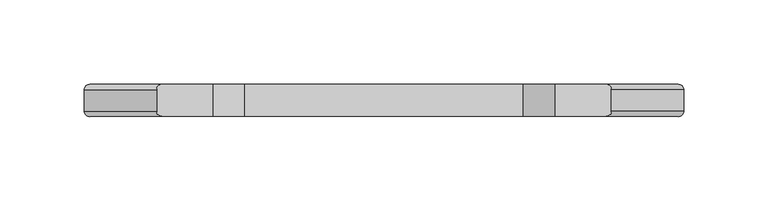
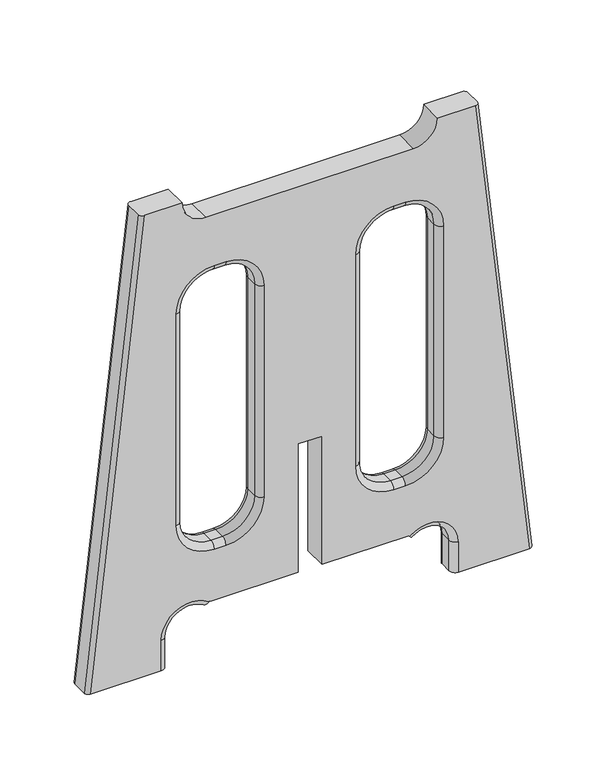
"""IFC4 building model written with IfcOpenShell, lengths in millimetres: furniture geometry, SSL-Childcraft_Outdoor-Stool : 2161353."""

from ifc_helpers import new_model, si_unit, point, frame, origin, place, context, project, spatial, polyline, circle_curve, ellipse_curve, trimmed, source, transform, mapped, element, save
from ifc_brep_helpers import plane_surface, cylinder_surface, revolved_surface, extruded_surface, spline_surface, advanced_brep


def furniture_25313ccf(model_context):
    return source(origin(), model_context, "Body", "AdvancedBrep", [
        advanced_brep(
        [(-101.5873, 4.7625, 117.475), (-76.2, 4.7625, 92.0877), (-76.2, 9.525, 87.3252), (-106.3498, 9.525, 117.475), (-101.5873, -4.7625, 117.475), (-76.2, -4.7625, 92.0877), (-106.3498, -9.525, 117.475), (-76.2, -9.525, 87.3252), (-106.3498, 9.525, 295.2623), (-101.5873, 4.7625, 295.2623), (-101.5873, -4.7625, 295.2623), (-106.3498, -9.525, 295.2623), (-76.1873, 9.525, 325.4248), (-76.1873, 4.7625, 320.6623), (-76.1873, -4.7625, 320.6623), (-76.1873, -9.525, 325.4248), (-66.675, 9.525, 325.4248), (-66.675, 4.7625, 320.6623), (-66.675, -4.7625, 320.6623), (-66.675, -9.525, 325.4248), (-36.5252, 9.525, 295.275), (-41.2877, 4.7625, 295.275), (-41.2877, -4.7625, 295.275), (-36.5252, -9.525, 295.275), (-36.5252, 9.525, 117.475), (-41.2877, 4.7625, 117.475), (-41.2877, -4.7625, 117.475), (-36.5252, -9.525, 117.475), (-66.675, 9.525, 87.3252), (-66.675, 4.7625, 92.0877), (-66.675, -4.7625, 92.0877), (-66.675, -9.525, 87.3252), (113.49355, -4.7625, 0.0), (118.25605, -9.525, 0.0), (118.25605, -9.525, 25.4), (113.49355, -4.7625, 25.4), (113.49355, 4.7625, 0.0), (113.49355, 4.7625, 25.4), (118.25605, 9.525, 0.0), (118.25605, 9.525, 25.4), (66.675, -9.525, 87.3252), (66.675, -4.7625, 92.0877), (41.2877, -4.7625, 117.475), (36.5252, -9.525, 117.475), (41.2877, 4.7625, 117.475), (66.675, 4.7625, 92.0877), (66.675, 9.525, 87.3252), (36.5252, 9.525, 117.475), (41.2877, -4.7625, 295.275), (36.5252, -9.525, 295.275), (36.5252, 9.525, 295.275), (41.2877, 4.7625, 295.275), (66.675, -4.7625, 320.6623), (66.675, -9.525, 325.4248), (66.675, 9.525, 325.4248), (66.675, 4.7625, 320.6623), (76.1873, -4.7625, 320.6623), (76.1873, -9.525, 325.4248), (76.1873, 9.525, 325.4248), (76.1873, 4.7625, 320.6623), (101.5873, -4.7625, 295.2623), (106.3498, -9.525, 295.2623), (106.3498, 9.525, 295.2623), (101.5873, 4.7625, 295.2623), (101.5873, -4.7625, 117.475), (106.3498, -9.525, 117.475), (106.3498, 9.525, 117.475), (101.5873, 4.7625, 117.475), (76.2, -4.7625, 92.0877), (76.2, -9.525, 87.3252), (76.2, 9.525, 87.3252), (76.2, 4.7625, 92.0877), (-79.9065722, -9.525, 45.24375), (-80.3759166, -9.525, 44.603629), (-83.1994928, -4.7498, 40.7526613), (-83.1994928, 4.7498, 40.7526613), (-80.3759166, 9.525, 44.603629), (-79.9065722, 9.525, 45.24375), (-118.26875, -9.525, 25.4), (-113.49355, -4.7498, 25.4), (-113.49355, 4.7498, 25.4), (-118.26875, 9.525, 25.4), (-118.26875, -9.525, 0.0), (-113.49355, -4.7498, 0.0), (-113.49355, 4.7498, 0.0), (-118.26875, 9.525, 0.0), (-131.7625, 9.525, 387.35), (-134.9375, 6.35, 387.35), (-134.9375, -6.35, 387.35), (-131.7625, -9.525, 387.35), (-101.6, -9.525, 387.35), (-101.6, 9.525, 387.35), (-174.625, -9.525, 0.0), (-177.8, -6.35, 0.0), (-177.8, 6.3524937, 0.0), (-174.6274937, 9.525, 0.0), (-82.55, 9.525, 368.3), (82.55, 9.525, 368.3), (101.6, 9.525, 387.35), (131.7625, 9.525, 387.35), (174.625, 9.525, 0.0), (79.392192, 9.525, 43.8256516), (78.8817504, 9.525, 44.45), (9.525, 9.525, 44.45), (9.525, 9.525, 152.4), (-9.525, 9.525, 152.4), (-9.525, 9.525, 44.45), (-78.8817504, 9.525, 44.45), (-78.8817504, -9.525, 44.45), (-9.525, -9.525, 44.45), (-9.525, -9.525, 152.4), (9.525, -9.525, 152.4), (9.525, -9.525, 44.45), (78.8817504, -9.525, 44.45), (79.392192, -9.525, 43.8256516), (174.6274937, -9.525, 0.0), (131.7625, -9.525, 387.35), (101.6, -9.525, 387.35), (82.55, -9.525, 368.3), (-82.55, -9.525, 368.3), (177.8, 6.35, 0.0), (177.8, -6.3524937, 0.0), (134.9375, -6.35, 387.35), (134.9375, 6.35, 387.35), (82.4066113, 4.7625, 40.1385548), (82.4066113, -4.7625, 40.1385548)],
        [
            (0, 1, circle_curve(frame((-76.2, 4.7625, 117.475), z_axis=(0.0, -1.0, 0.0), x_axis=(0.0, 0.0, -1.0)), 25.3873)),
            (1, 2, circle_curve(frame((-76.2, 4.7625, 87.3252), z_axis=(-1.0, 0.0, 0.0), x_axis=(0.0, 0.0, -1.0)), 4.7625)),
            (2, 3, circle_curve(frame((-76.2, 9.525, 117.475), z_axis=(0.0, 1.0, 0.0), x_axis=(0.0, 0.0, -1.0)), 30.1498)),
            (3, 0, circle_curve(frame((-106.3498, 4.7625, 117.475), z_axis=(0.0, 0.0, -1.0), x_axis=(-1.0, 0.0, 0.0)), 4.7625)),
            (0, 4),
            (4, 5, circle_curve(frame((-76.2, -4.7625, 117.475), z_axis=(0.0, -1.0, 0.0), x_axis=(0.0, 0.0, -1.0)), 25.3873)),
            (5, 1),
            (4, 6, circle_curve(frame((-106.3498, -4.7625, 117.475), z_axis=(0.0, 0.0, -1.0), x_axis=(-1.0, 0.0, 0.0)), 4.7625)),
            (6, 7, circle_curve(frame((-76.2, -9.525, 117.475), z_axis=(0.0, -1.0, 0.0), x_axis=(0.0, 0.0, -1.0)), 30.1498)),
            (7, 5, circle_curve(frame((-76.2, -4.7625, 87.3252), z_axis=(-1.0, 0.0, 0.0), x_axis=(0.0, 0.0, -1.0)), 4.7625)),
            (3, 8),
            (8, 9, circle_curve(frame((-106.3498, 4.7625, 295.2623), z_axis=(0.0, 0.0, -1.0), x_axis=(-1.0, 0.0, 0.0)), 4.7625)),
            (9, 0),
            (9, 10),
            (10, 4),
            (10, 11, circle_curve(frame((-106.3498, -4.7625, 295.2623), z_axis=(0.0, 0.0, -1.0), x_axis=(-1.0, 0.0, 0.0)), 4.7625)),
            (11, 6),
            (8, 12, circle_curve(frame((-76.1873, 9.525, 295.2623), z_axis=(0.0, 1.0, 0.0), x_axis=(-1.0, 0.0, 0.0)), 30.1625)),
            (12, 13, circle_curve(frame((-76.1873, 4.7625, 325.4248), z_axis=(-1.0, 0.0, 0.0), x_axis=(0.0, 0.0, 1.0)), 4.7625)),
            (13, 9, circle_curve(frame((-76.1873, 4.7625, 295.2623), z_axis=(0.0, -1.0, 0.0), x_axis=(-1.0, 0.0, 0.0)), 25.4)),
            (13, 14),
            (14, 10, circle_curve(frame((-76.1873, -4.7625, 295.2623), z_axis=(0.0, -1.0, 0.0), x_axis=(-1.0, 0.0, 0.0)), 25.4)),
            (14, 15, circle_curve(frame((-76.1873, -4.7625, 325.4248), z_axis=(-1.0, 0.0, 0.0), x_axis=(0.0, 0.0, 1.0)), 4.7625)),
            (15, 11, circle_curve(frame((-76.1873, -9.525, 295.2623), z_axis=(0.0, -1.0, 0.0), x_axis=(-1.0, 0.0, 0.0)), 30.1625)),
            (12, 16),
            (16, 17, circle_curve(frame((-66.675, 4.7625, 325.4248), z_axis=(-1.0, 0.0, 0.0), x_axis=(0.0, 0.0, 1.0)), 4.7625)),
            (17, 13),
            (17, 18),
            (18, 14),
            (18, 19, circle_curve(frame((-66.675, -4.7625, 325.4248), z_axis=(-1.0, 0.0, 0.0), x_axis=(0.0, 0.0, 1.0)), 4.7625)),
            (19, 15),
            (16, 20, circle_curve(frame((-66.675, 9.525, 295.275), z_axis=(0.0, 1.0, 0.0), x_axis=(0.0, 0.0, 1.0)), 30.1498)),
            (20, 21, circle_curve(frame((-36.5252, 4.7625, 295.275), z_axis=(0.0, 0.0, 1.0), x_axis=(1.0, 0.0, 0.0)), 4.7625)),
            (21, 17, circle_curve(frame((-66.675, 4.7625, 295.275), z_axis=(0.0, -1.0, 0.0), x_axis=(0.0, 0.0, 1.0)), 25.3873)),
            (21, 22),
            (22, 18, circle_curve(frame((-66.675, -4.7625, 295.275), z_axis=(0.0, -1.0, 0.0), x_axis=(0.0, 0.0, 1.0)), 25.3873)),
            (22, 23, circle_curve(frame((-36.5252, -4.7625, 295.275), z_axis=(0.0, 0.0, 1.0), x_axis=(1.0, 0.0, 0.0)), 4.7625)),
            (23, 19, circle_curve(frame((-66.675, -9.525, 295.275), z_axis=(0.0, -1.0, 0.0), x_axis=(0.0, 0.0, 1.0)), 30.1498)),
            (20, 24),
            (24, 25, circle_curve(frame((-36.5252, 4.7625, 117.475), z_axis=(0.0, 0.0, 1.0), x_axis=(1.0, 0.0, 0.0)), 4.7625)),
            (25, 21),
            (25, 26),
            (26, 22),
            (26, 27, circle_curve(frame((-36.5252, -4.7625, 117.475), z_axis=(0.0, 0.0, 1.0), x_axis=(1.0, 0.0, 0.0)), 4.7625)),
            (27, 23),
            (24, 28, circle_curve(frame((-66.675, 9.525, 117.475), z_axis=(0.0, 1.0, 0.0), x_axis=(1.0, 0.0, 0.0)), 30.1498)),
            (28, 29, circle_curve(frame((-66.675, 4.7625, 87.3252), z_axis=(1.0, 0.0, 0.0), x_axis=(0.0, 0.0, -1.0)), 4.7625)),
            (29, 25, circle_curve(frame((-66.675, 4.7625, 117.475), z_axis=(0.0, -1.0, 0.0), x_axis=(1.0, 0.0, 0.0)), 25.3873)),
            (29, 30),
            (30, 26, circle_curve(frame((-66.675, -4.7625, 117.475), z_axis=(0.0, -1.0, 0.0), x_axis=(1.0, 0.0, 0.0)), 25.3873)),
            (30, 31, circle_curve(frame((-66.675, -4.7625, 87.3252), z_axis=(1.0, 0.0, 0.0), x_axis=(0.0, 0.0, -1.0)), 4.7625)),
            (31, 27, circle_curve(frame((-66.675, -9.525, 117.475), z_axis=(0.0, -1.0, 0.0), x_axis=(1.0, 0.0, 0.0)), 30.1498)),
            (1, 29),
            (28, 2),
            (5, 30),
            (7, 31),
            (32, 33, circle_curve(frame((118.25605, -4.7625, 0.0), z_axis=(0.0, 0.0, 1.0), x_axis=(-1.0, 0.0, 0.0)), 4.7625)),
            (33, 34),
            (34, 35, circle_curve(frame((118.25605, -4.7625, 25.4), z_axis=(0.0, 0.0, -1.0), x_axis=(-1.0, 0.0, 0.0)), 4.7625)),
            (35, 32),
            (36, 32),
            (35, 37),
            (37, 36),
            (38, 36, circle_curve(frame((118.25605, 4.7625, 0.0), z_axis=(0.0, 0.0, 1.0), x_axis=(-1.0, 0.0, 0.0)), 4.7625)),
            (37, 39, circle_curve(frame((118.25605, 4.7625, 25.4), z_axis=(0.0, 0.0, -1.0), x_axis=(-1.0, 0.0, 0.0)), 4.7625)),
            (39, 38),
            (40, 41, circle_curve(frame((66.675, -4.7625, 87.3252), z_axis=(-1.0, 0.0, 0.0), x_axis=(0.0, 0.0, -1.0)), 4.7625)),
            (41, 42, circle_curve(frame((66.675, -4.7625, 117.475), z_axis=(0.0, 1.0, 0.0), x_axis=(0.0, 0.0, -1.0)), 25.3873)),
            (42, 43, circle_curve(frame((36.5252, -4.7625, 117.475), z_axis=(0.0, 0.0, -1.0), x_axis=(-1.0, 0.0, 0.0)), 4.7625)),
            (43, 40, circle_curve(frame((66.675, -9.525, 117.475), z_axis=(0.0, -1.0, 0.0), x_axis=(0.0, 0.0, -1.0)), 30.1498)),
            (44, 45, circle_curve(frame((66.675, 4.7625, 117.475), z_axis=(0.0, -1.0, 0.0), x_axis=(0.0, 0.0, -1.0)), 25.3873)),
            (45, 46, circle_curve(frame((66.675, 4.7625, 87.3252), z_axis=(-1.0, 0.0, 0.0), x_axis=(0.0, 0.0, -1.0)), 4.7625)),
            (46, 47, circle_curve(frame((66.675, 9.525, 117.475), z_axis=(0.0, 1.0, 0.0), x_axis=(0.0, 0.0, -1.0)), 30.1498)),
            (47, 44, circle_curve(frame((36.5252, 4.7625, 117.475), z_axis=(0.0, 0.0, -1.0), x_axis=(-1.0, 0.0, 0.0)), 4.7625)),
            (41, 45),
            (44, 42),
            (42, 48),
            (48, 49, circle_curve(frame((36.5252, -4.7625, 295.275), z_axis=(0.0, 0.0, -1.0), x_axis=(-1.0, 0.0, 0.0)), 4.7625)),
            (49, 43),
            (47, 50),
            (50, 51, circle_curve(frame((36.5252, 4.7625, 295.275), z_axis=(0.0, 0.0, -1.0), x_axis=(-1.0, 0.0, 0.0)), 4.7625)),
            (51, 44),
            (51, 48),
            (48, 52, circle_curve(frame((66.675, -4.7625, 295.275), z_axis=(0.0, 1.0, 0.0), x_axis=(-1.0, 0.0, 0.0)), 25.3873)),
            (52, 53, circle_curve(frame((66.675, -4.7625, 325.4248), z_axis=(-1.0, 0.0, 0.0), x_axis=(0.0, 0.0, 1.0)), 4.7625)),
            (53, 49, circle_curve(frame((66.675, -9.525, 295.275), z_axis=(0.0, -1.0, 0.0), x_axis=(-1.0, 0.0, 0.0)), 30.1498)),
            (50, 54, circle_curve(frame((66.675, 9.525, 295.275), z_axis=(0.0, 1.0, 0.0), x_axis=(-1.0, 0.0, 0.0)), 30.1498)),
            (54, 55, circle_curve(frame((66.675, 4.7625, 325.4248), z_axis=(-1.0, 0.0, 0.0), x_axis=(0.0, 0.0, 1.0)), 4.7625)),
            (55, 51, circle_curve(frame((66.675, 4.7625, 295.275), z_axis=(0.0, -1.0, 0.0), x_axis=(-1.0, 0.0, 0.0)), 25.3873)),
            (55, 52),
            (52, 56),
            (56, 57, circle_curve(frame((76.1873, -4.7625, 325.4248), z_axis=(-1.0, 0.0, 0.0), x_axis=(0.0, 0.0, 1.0)), 4.7625)),
            (57, 53),
            (54, 58),
            (58, 59, circle_curve(frame((76.1873, 4.7625, 325.4248), z_axis=(-1.0, 0.0, 0.0), x_axis=(0.0, 0.0, 1.0)), 4.7625)),
            (59, 55),
            (59, 56),
            (56, 60, circle_curve(frame((76.1873, -4.7625, 295.2623), z_axis=(0.0, 1.0, 0.0), x_axis=(0.0, 0.0, 1.0)), 25.4)),
            (60, 61, circle_curve(frame((106.3498, -4.7625, 295.2623), z_axis=(0.0, 0.0, 1.0), x_axis=(1.0, 0.0, 0.0)), 4.7625)),
            (61, 57, circle_curve(frame((76.1873, -9.525, 295.2623), z_axis=(0.0, -1.0, 0.0), x_axis=(0.0, 0.0, 1.0)), 30.1625)),
            (58, 62, circle_curve(frame((76.1873, 9.525, 295.2623), z_axis=(0.0, 1.0, 0.0), x_axis=(0.0, 0.0, 1.0)), 30.1625)),
            (62, 63, circle_curve(frame((106.3498, 4.7625, 295.2623), z_axis=(0.0, 0.0, 1.0), x_axis=(1.0, 0.0, 0.0)), 4.7625)),
            (63, 59, circle_curve(frame((76.1873, 4.7625, 295.2623), z_axis=(0.0, -1.0, 0.0), x_axis=(0.0, 0.0, 1.0)), 25.4)),
            (63, 60),
            (60, 64),
            (64, 65, circle_curve(frame((106.3498, -4.7625, 117.475), z_axis=(0.0, 0.0, 1.0), x_axis=(1.0, 0.0, 0.0)), 4.7625)),
            (65, 61),
            (62, 66),
            (66, 67, circle_curve(frame((106.3498, 4.7625, 117.475), z_axis=(0.0, 0.0, 1.0), x_axis=(1.0, 0.0, 0.0)), 4.7625)),
            (67, 63),
            (67, 64),
            (64, 68, circle_curve(frame((76.2, -4.7625, 117.475), z_axis=(0.0, 1.0, 0.0), x_axis=(1.0, 0.0, 0.0)), 25.3873)),
            (68, 69, circle_curve(frame((76.2, -4.7625, 87.3252), z_axis=(1.0, 0.0, 0.0), x_axis=(0.0, 0.0, -1.0)), 4.7625)),
            (69, 65, circle_curve(frame((76.2, -9.525, 117.475), z_axis=(0.0, -1.0, 0.0), x_axis=(1.0, 0.0, 0.0)), 30.1498)),
            (66, 70, circle_curve(frame((76.2, 9.525, 117.475), z_axis=(0.0, 1.0, 0.0), x_axis=(1.0, 0.0, 0.0)), 30.1498)),
            (70, 71, circle_curve(frame((76.2, 4.7625, 87.3252), z_axis=(1.0, 0.0, 0.0), x_axis=(0.0, 0.0, -1.0)), 4.7625)),
            (71, 67, circle_curve(frame((76.2, 4.7625, 117.475), z_axis=(0.0, -1.0, 0.0), x_axis=(1.0, 0.0, 0.0)), 25.3873)),
            (71, 68),
            (40, 69),
            (68, 41),
            (45, 71),
            (70, 46),
            (72, 73),
            (73, 74, circle_curve(frame((-80.3759166, -4.7498, 44.603629), z_axis=(0.8064516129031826, 0.0, -0.5913000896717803), x_axis=(0.0, -1.0, 0.0)), 4.7752)),
            (74, 75),
            (75, 76, circle_curve(frame((-80.3759166, 4.7498, 44.603629), z_axis=(0.8064516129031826, 0.0, -0.5913000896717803), x_axis=(0.0, -1.0, 0.0)), 4.7752)),
            (76, 77),
            (77, 72),
            (73, 78, circle_curve(frame((-94.45625, -9.525, 25.4), z_axis=(0.0, -1.0, 0.0), x_axis=(0.5913000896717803, 0.0, 0.8064516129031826)), 23.8125)),
            (78, 79, circle_curve(frame((-118.26875, -4.7498, 25.4), z_axis=(0.0, 0.0, 1.0), x_axis=(0.0, -1.0, 0.0)), 4.7752)),
            (79, 74, circle_curve(frame((-94.45625, -4.7498, 25.4), z_axis=(0.0, 1.0, 0.0), x_axis=(0.5913000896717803, 0.0, 0.8064516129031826)), 19.0373)),
            (79, 80),
            (80, 75, circle_curve(frame((-94.45625, 4.7498, 25.4), z_axis=(0.0, 1.0, 0.0), x_axis=(0.5913000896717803, 0.0, 0.8064516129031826)), 19.0373)),
            (80, 81, circle_curve(frame((-118.26875, 4.7498, 25.4), z_axis=(0.0, 0.0, 1.0), x_axis=(0.0, -1.0, 0.0)), 4.7752)),
            (81, 76, circle_curve(frame((-94.45625, 9.525, 25.4), z_axis=(0.0, 1.0, 0.0), x_axis=(0.5913000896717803, 0.0, 0.8064516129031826)), 23.8125)),
            (82, 83, circle_curve(frame((-118.26875, -4.7498, 0.0), z_axis=(0.0, 0.0, 1.0), x_axis=(0.0, -1.0, 0.0)), 4.7752)),
            (83, 79),
            (78, 82),
            (83, 84),
            (84, 80),
            (84, 85, circle_curve(frame((-118.26875, 4.7498, 0.0), z_axis=(0.0, 0.0, 1.0), x_axis=(0.0, -1.0, 0.0)), 4.7752)),
            (85, 81),
            (86, 87, circle_curve(frame((-131.7625, 6.35, 387.35), z_axis=(0.0, 0.0, 1.0), x_axis=(0.0, 1.0, 0.0)), 3.175)),
            (87, 88),
            (88, 89, circle_curve(frame((-131.7625, -6.35, 387.35), z_axis=(0.0, 0.0, 1.0), x_axis=(0.0, 1.0, 0.0)), 3.175)),
            (89, 90),
            (90, 91),
            (91, 86),
            (92, 93, circle_curve(frame((-174.625, -6.35, 0.0), z_axis=(0.0, 0.0, -1.0), x_axis=(0.0, 1.0, 0.0)), 3.175)),
            (93, 94),
            (94, 95, circle_curve(frame((-174.6274937, 6.3524937, 0.0), z_axis=(0.0, 0.0, -1.0), x_axis=(0.0, 1.0, 0.0)), 3.1725063)),
            (95, 85),
            (82, 92),
            (95, 86),
            (91, 96, circle_curve(frame((-82.55, 9.525, 387.35), z_axis=(0.0, -1.0, 0.0), x_axis=(1.0, 0.0, 0.0)), 19.05)),
            (96, 97),
            (97, 98, circle_curve(frame((82.55, 9.525, 387.35), z_axis=(0.0, -1.0, 0.0), x_axis=(1.0, 0.0, 0.0)), 19.05)),
            (98, 99),
            (99, 100),
            (100, 38),
            (39, 101, circle_curve(frame((94.45625, 9.525, 25.4), z_axis=(0.0, -1.0, 0.0), x_axis=(1.0, 0.0, 0.0)), 23.7998)),
            (101, 102),
            (102, 103),
            (103, 104),
            (104, 105),
            (105, 106),
            (106, 107),
            (107, 77, circle_curve(frame((-94.45625, 9.525, 25.4), z_axis=(0.0, -1.0, 0.0), x_axis=(1.0, 0.0, 0.0)), 24.60625)),
            (94, 87),
            (93, 88),
            (92, 89),
            (72, 108, circle_curve(frame((-94.45625, -9.525, 25.4), z_axis=(0.0, 1.0, 0.0), x_axis=(1.0, 0.0, 0.0)), 24.60625)),
            (108, 109),
            (109, 110),
            (110, 111),
            (111, 112),
            (112, 113),
            (113, 114),
            (114, 34, circle_curve(frame((94.45625, -9.525, 25.4), z_axis=(0.0, 1.0, 0.0), x_axis=(1.0, 0.0, 0.0)), 23.7998)),
            (33, 115),
            (115, 116),
            (116, 117),
            (117, 118, circle_curve(frame((82.55, -9.525, 387.35), z_axis=(0.0, 1.0, 0.0), x_axis=(1.0, 0.0, 0.0)), 19.05)),
            (118, 119),
            (119, 90, circle_curve(frame((-82.55, -9.525, 387.35), z_axis=(0.0, 1.0, 0.0), x_axis=(1.0, 0.0, 0.0)), 19.05)),
            (107, 108),
            (106, 109),
            (105, 110),
            (104, 111),
            (103, 112),
            (102, 113),
            (100, 120, circle_curve(frame((174.625, 6.35, 0.0), z_axis=(0.0, 0.0, -1.0), x_axis=(0.0, -1.0, 0.0)), 3.175)),
            (120, 121),
            (121, 115, circle_curve(frame((174.6274937, -6.3524937, 0.0), z_axis=(0.0, 0.0, -1.0), x_axis=(0.0, -1.0, 0.0)), 3.1725063)),
            (98, 117),
            (116, 122, circle_curve(frame((131.7625, -6.35, 387.35), z_axis=(0.0, 0.0, 1.0), x_axis=(0.0, -1.0, 0.0)), 3.175)),
            (122, 123),
            (123, 99, circle_curve(frame((131.7625, 6.35, 387.35), z_axis=(0.0, 0.0, 1.0), x_axis=(0.0, -1.0, 0.0)), 3.175)),
            (97, 118),
            (96, 119),
            (101, 124, circle_curve(frame((79.392192, 4.7625, 43.8256516), z_axis=(-0.774193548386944, 0.0, -0.6329489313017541), x_axis=(0.6329489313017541, 0.0, -0.774193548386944)), 4.7625)),
            (124, 125),
            (125, 114, circle_curve(frame((79.392192, -4.7625, 43.8256516), z_axis=(-0.774193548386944, 0.0, -0.6329489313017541), x_axis=(0.6329489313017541, 0.0, -0.774193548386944)), 4.7625)),
            (125, 35, circle_curve(frame((94.45625, -4.7625, 25.4), z_axis=(0.0, 1.0, 0.0), x_axis=(1.0, 0.0, 0.0)), 19.0373)),
            (124, 37, circle_curve(frame((94.45625, 4.7625, 25.4), z_axis=(0.0, 1.0, 0.0), x_axis=(1.0, 0.0, 0.0)), 19.0373)),
            (121, 122),
            (120, 123),
        ],
        [
            revolved_surface(trimmed(ellipse_curve(frame((-76.2, 4.7625, 87.3252), z_axis=(1.0, 0.0, 0.0), x_axis=(0.0, 0.0, -1.0)), 4.7625, 4.7625), [point((-76.2, 9.525, 87.3252))], [point((-76.2, 4.7625, 92.0877))], True, "CARTESIAN"), (-76.2, 0.0, 117.475), (0.0, 1.0, 0.0)),
            revolved_surface(polyline([(-76.2, 4.7625, 92.0877), (-76.2, -4.7625, 92.0877)]), (-76.2, 0.0, 117.475), (0.0, 1.0, 0.0)),
            revolved_surface(trimmed(ellipse_curve(frame((-76.2, -4.7625, 87.3252), z_axis=(1.0, 0.0, 0.0), x_axis=(0.0, 0.0, -1.0)), 4.7625, 4.7625), [point((-76.2, -4.7625, 92.0877))], [point((-76.2, -9.525, 87.3252))], True, "CARTESIAN"), (-76.2, 0.0, 117.475), (0.0, 1.0, 0.0)),
            cylinder_surface(frame((-106.3498, 4.7625, 117.475), z_axis=(0.0, 0.0, -1.0), x_axis=(-1.0, 0.0, 0.0)), 4.7625),
            plane_surface(frame((-101.5873, 4.7625, 117.475), z_axis=(1.0, 0.0, 0.0), x_axis=(0.0, 0.0, 1.0))),
            cylinder_surface(frame((-106.3498, -4.7625, 117.475), z_axis=(0.0, 0.0, -1.0), x_axis=(-1.0, 0.0, 0.0)), 4.7625),
            revolved_surface(trimmed(ellipse_curve(frame((-106.3498, 4.7625, 295.2623), z_axis=(0.0, 0.0, -1.0), x_axis=(-1.0, 0.0, 0.0)), 4.7625, 4.7625), [point((-106.3498, 9.525, 295.2623))], [point((-101.5873, 4.7625, 295.2623))], True, "CARTESIAN"), (-76.1873, 0.0, 295.2623), (0.0, 1.0, 0.0)),
            revolved_surface(polyline([(-101.5873, 4.7625, 295.2623), (-101.5873, -4.7625, 295.2623)]), (-76.1873, 0.0, 295.2623), (0.0, 1.0, 0.0)),
            revolved_surface(trimmed(ellipse_curve(frame((-106.3498, -4.7625, 295.2623), z_axis=(0.0, 0.0, -1.0), x_axis=(-1.0, 0.0, 0.0)), 4.7625, 4.7625), [point((-101.5873, -4.7625, 295.2623))], [point((-106.3498, -9.525, 295.2623))], True, "CARTESIAN"), (-76.1873, 0.0, 295.2623), (0.0, 1.0, 0.0)),
            cylinder_surface(frame((-76.1873, 4.7625, 325.4248), z_axis=(-1.0, 0.0, 0.0), x_axis=(0.0, 0.0, 1.0)), 4.7625),
            plane_surface(frame((-76.1873, 4.7625, 320.6623), z_axis=(0.0, 0.0, -1.0), x_axis=(1.0, 0.0, 0.0))),
            cylinder_surface(frame((-76.1873, -4.7625, 325.4248), z_axis=(-1.0, 0.0, 0.0), x_axis=(0.0, 0.0, 1.0)), 4.7625),
            revolved_surface(trimmed(ellipse_curve(frame((-66.675, 4.7625, 325.4248), z_axis=(-1.0, 0.0, 0.0), x_axis=(0.0, 0.0, 1.0)), 4.7625, 4.7625), [point((-66.675, 9.525, 325.4248))], [point((-66.675, 4.7625, 320.6623))], True, "CARTESIAN"), (-66.675, 0.0, 295.275), (0.0, 1.0, 0.0)),
            revolved_surface(polyline([(-66.675, 4.7625, 320.66229999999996), (-66.675, -4.7625, 320.66229999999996)]), (-66.675, 0.0, 295.275), (0.0, 1.0, 0.0)),
            revolved_surface(trimmed(ellipse_curve(frame((-66.675, -4.7625, 325.4248), z_axis=(-1.0, 0.0, 0.0), x_axis=(0.0, 0.0, 1.0)), 4.7625, 4.7625), [point((-66.675, -4.7625, 320.6623))], [point((-66.675, -9.525, 325.4248))], True, "CARTESIAN"), (-66.675, 0.0, 295.275), (0.0, 1.0, 0.0)),
            cylinder_surface(frame((-36.5252, 4.7625, 295.275), z_axis=(0.0, 0.0, 1.0), x_axis=(1.0, 0.0, 0.0)), 4.7625),
            plane_surface(frame((-41.2877, 4.7625, 295.275), z_axis=(-1.0, 0.0, 0.0), x_axis=(0.0, 0.0, -1.0))),
            cylinder_surface(frame((-36.5252, -4.7625, 295.275), z_axis=(0.0, 0.0, 1.0), x_axis=(1.0, 0.0, 0.0)), 4.7625),
            revolved_surface(trimmed(ellipse_curve(frame((-36.5252, 4.7625, 117.475), z_axis=(0.0, 0.0, 1.0), x_axis=(1.0, 0.0, 0.0)), 4.7625, 4.7625), [point((-36.5252, 9.525, 117.475))], [point((-41.2877, 4.7625, 117.475))], True, "CARTESIAN"), (-66.675, 0.0, 117.475), (0.0, 1.0, 0.0)),
            revolved_surface(polyline([(-41.2877, 4.7625, 117.475), (-41.2877, -4.7625, 117.475)]), (-66.675, 0.0, 117.475), (0.0, 1.0, 0.0)),
            revolved_surface(trimmed(ellipse_curve(frame((-36.5252, -4.7625, 117.475), z_axis=(0.0, 0.0, 1.0), x_axis=(1.0, 0.0, 0.0)), 4.7625, 4.7625), [point((-41.2877, -4.7625, 117.475))], [point((-36.5252, -9.525, 117.475))], True, "CARTESIAN"), (-66.675, 0.0, 117.475), (0.0, 1.0, 0.0)),
            cylinder_surface(frame((-66.675, 4.7625, 87.3252), z_axis=(1.0, 0.0, 0.0), x_axis=(0.0, 0.0, -1.0)), 4.7625),
            plane_surface(frame((-66.675, 4.7625, 92.0877), z_axis=(0.0, 0.0, 1.0), x_axis=(-1.0, 0.0, 0.0))),
            cylinder_surface(frame((-66.675, -4.7625, 87.3252), z_axis=(1.0, 0.0, 0.0), x_axis=(0.0, 0.0, -1.0)), 4.7625),
            cylinder_surface(frame((118.25605, -4.7625, 0.0), z_axis=(0.0, 0.0, -1.0), x_axis=(-1.0, 0.0, 0.0)), 4.7625),
            plane_surface(frame((113.49355, -4.7625, 0.0), z_axis=(-1.0, 0.0, 0.0), x_axis=(0.0, 0.0, 1.0))),
            cylinder_surface(frame((118.25605, 4.7625, 0.0), z_axis=(0.0, 0.0, -1.0), x_axis=(-1.0, 0.0, 0.0)), 4.7625),
            revolved_surface(trimmed(ellipse_curve(frame((66.675, -4.7625, 87.3252), z_axis=(1.0, 0.0, 0.0), x_axis=(0.0, 0.0, -1.0)), 4.7625, 4.7625), [point((66.675, -4.7625, 92.0877))], [point((66.675, -9.525, 87.3252))], True, "CARTESIAN"), (66.675, 0.0, 117.475), (0.0, 1.0, 0.0)),
            revolved_surface(trimmed(ellipse_curve(frame((66.675, 4.7625, 87.3252), z_axis=(1.0, 0.0, 0.0), x_axis=(0.0, 0.0, -1.0)), 4.7625, 4.7625), [point((66.675, 9.525, 87.3252))], [point((66.675, 4.7625, 92.0877))], True, "CARTESIAN"), (66.675, 0.0, 117.475), (0.0, 1.0, 0.0)),
            revolved_surface(polyline([(66.675, 4.7625, 92.0877), (66.675, -4.7625, 92.0877)]), (66.675, 0.0, 117.475), (0.0, 1.0, 0.0)),
            cylinder_surface(frame((36.5252, -4.7625, 117.475), z_axis=(0.0, 0.0, -1.0), x_axis=(-1.0, 0.0, 0.0)), 4.7625),
            cylinder_surface(frame((36.5252, 4.7625, 117.475), z_axis=(0.0, 0.0, -1.0), x_axis=(-1.0, 0.0, 0.0)), 4.7625),
            plane_surface(frame((41.2877, 4.7625, 117.475), z_axis=(1.0, 0.0, 0.0), x_axis=(0.0, 0.0, 1.0))),
            revolved_surface(trimmed(ellipse_curve(frame((36.5252, -4.7625, 295.275), z_axis=(0.0, 0.0, -1.0), x_axis=(-1.0, 0.0, 0.0)), 4.7625, 4.7625), [point((41.2877, -4.7625, 295.275))], [point((36.5252, -9.525, 295.275))], True, "CARTESIAN"), (66.675, 0.0, 295.275), (0.0, 1.0, 0.0)),
            revolved_surface(trimmed(ellipse_curve(frame((36.5252, 4.7625, 295.275), z_axis=(0.0, 0.0, -1.0), x_axis=(-1.0, 0.0, 0.0)), 4.7625, 4.7625), [point((36.5252, 9.525, 295.275))], [point((41.2877, 4.7625, 295.275))], True, "CARTESIAN"), (66.675, 0.0, 295.275), (0.0, 1.0, 0.0)),
            revolved_surface(polyline([(41.2877, 4.7625, 295.275), (41.2877, -4.7625, 295.275)]), (66.675, 0.0, 295.275), (0.0, 1.0, 0.0)),
            cylinder_surface(frame((66.675, -4.7625, 325.4248), z_axis=(-1.0, 0.0, 0.0), x_axis=(0.0, 0.0, 1.0)), 4.7625),
            cylinder_surface(frame((66.675, 4.7625, 325.4248), z_axis=(-1.0, 0.0, 0.0), x_axis=(0.0, 0.0, 1.0)), 4.7625),
            plane_surface(frame((66.675, 4.7625, 320.6623), z_axis=(0.0, 0.0, -1.0), x_axis=(1.0, 0.0, 0.0))),
            revolved_surface(trimmed(ellipse_curve(frame((76.1873, -4.7625, 325.4248), z_axis=(-1.0, 0.0, 0.0), x_axis=(0.0, 0.0, 1.0)), 4.7625, 4.7625), [point((76.1873, -4.7625, 320.6623))], [point((76.1873, -9.525, 325.4248))], True, "CARTESIAN"), (76.1873, 0.0, 295.2623), (0.0, 1.0, 0.0)),
            revolved_surface(trimmed(ellipse_curve(frame((76.1873, 4.7625, 325.4248), z_axis=(-1.0, 0.0, 0.0), x_axis=(0.0, 0.0, 1.0)), 4.7625, 4.7625), [point((76.1873, 9.525, 325.4248))], [point((76.1873, 4.7625, 320.6623))], True, "CARTESIAN"), (76.1873, 0.0, 295.2623), (0.0, 1.0, 0.0)),
            revolved_surface(polyline([(76.1873, 4.7625, 320.66229999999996), (76.1873, -4.7625, 320.66229999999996)]), (76.1873, 0.0, 295.2623), (0.0, 1.0, 0.0)),
            cylinder_surface(frame((106.3498, -4.7625, 295.2623), z_axis=(0.0, 0.0, 1.0), x_axis=(1.0, 0.0, 0.0)), 4.7625),
            cylinder_surface(frame((106.3498, 4.7625, 295.2623), z_axis=(0.0, 0.0, 1.0), x_axis=(1.0, 0.0, 0.0)), 4.7625),
            plane_surface(frame((101.5873, 4.7625, 295.2623), z_axis=(-1.0, 0.0, 0.0), x_axis=(0.0, 0.0, -1.0))),
            revolved_surface(trimmed(ellipse_curve(frame((106.3498, -4.7625, 117.475), z_axis=(0.0, 0.0, 1.0), x_axis=(1.0, 0.0, 0.0)), 4.7625, 4.7625), [point((101.5873, -4.7625, 117.475))], [point((106.3498, -9.525, 117.475))], True, "CARTESIAN"), (76.2, 0.0, 117.475), (0.0, 1.0, 0.0)),
            revolved_surface(trimmed(ellipse_curve(frame((106.3498, 4.7625, 117.475), z_axis=(0.0, 0.0, 1.0), x_axis=(1.0, 0.0, 0.0)), 4.7625, 4.7625), [point((106.3498, 9.525, 117.475))], [point((101.5873, 4.7625, 117.475))], True, "CARTESIAN"), (76.2, 0.0, 117.475), (0.0, 1.0, 0.0)),
            revolved_surface(polyline([(101.5873, 4.7625, 117.475), (101.5873, -4.7625, 117.475)]), (76.2, 0.0, 117.475), (0.0, 1.0, 0.0)),
            cylinder_surface(frame((76.2, -4.7625, 87.3252), z_axis=(1.0, 0.0, 0.0), x_axis=(0.0, 0.0, -1.0)), 4.7625),
            cylinder_surface(frame((76.2, 4.7625, 87.3252), z_axis=(1.0, 0.0, 0.0), x_axis=(0.0, 0.0, -1.0)), 4.7625),
            plane_surface(frame((76.2, 4.7625, 92.0877), z_axis=(0.0, 0.0, 1.0), x_axis=(-1.0, 0.0, 0.0))),
            plane_surface(frame((-79.9065722, 0.0, 45.24375), z_axis=(0.8064516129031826, 0.0, -0.5913000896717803), x_axis=(0.0, -1.0, 0.0))),
            revolved_surface(trimmed(ellipse_curve(frame((-80.3759166, -4.7498, 44.603629), z_axis=(0.8064516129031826, 0.0, -0.5913000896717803), x_axis=(0.0, -1.0, 0.0)), 4.7752, 4.7752), [point((-80.3759166, -9.525, 44.603629))], [point((-83.1994928, -4.7498, 40.7526613))], True, "CARTESIAN"), (-94.45625, 0.0, 25.4), (0.0, -1.0, 0.0)),
            revolved_surface(polyline([(-83.19949280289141, -4.7498, 40.752661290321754), (-83.19949280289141, 4.7498, 40.752661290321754)]), (-94.45625, 0.0, 25.4), (0.0, -1.0, 0.0)),
            revolved_surface(trimmed(ellipse_curve(frame((-80.3759166, 4.7498, 44.603629), z_axis=(0.8064516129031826, 0.0, -0.5913000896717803), x_axis=(0.0, -1.0, 0.0)), 4.7752, 4.7752), [point((-83.1994928, 4.7498, 40.7526613))], [point((-80.3759166, 9.525, 44.603629))], True, "CARTESIAN"), (-94.45625, 0.0, 25.4), (0.0, -1.0, 0.0)),
            cylinder_surface(frame((-118.26875, -4.7498, 25.4), z_axis=(0.0, 0.0, 1.0), x_axis=(0.0, -1.0, 0.0)), 4.7752),
            plane_surface(frame((-113.49355, -4.7498, 25.4), z_axis=(1.0, 0.0, 0.0), x_axis=(0.0, 0.0, -1.0))),
            cylinder_surface(frame((-118.26875, 4.7498, 25.4), z_axis=(0.0, 0.0, 1.0), x_axis=(0.0, -1.0, 0.0)), 4.7752),
            plane_surface(frame((-132.0270833, 0.0, 387.35), z_axis=(0.0, 0.0, 1.0), x_axis=(-1.0, 0.0, 0.0))),
            plane_surface(frame((-174.889999, 0.0004156, 0.0), z_axis=(0.0, 0.0, -1.0), x_axis=(-1.0, 0.0, 0.0))),
            plane_surface(frame((-173.4356219, 9.525, 0.0), z_axis=(0.0, 1.0, 0.0), x_axis=(-1.0, 0.0, 0.0))),
            spline_surface(2, 1, [[(-174.6274937, 9.525, 0.0), (-131.7625, 9.525, 387.35)], [(-177.8, 9.52499999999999, 0.0), (-134.9375, 9.52499999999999, 387.35)], [(-177.8, 6.3524937, 0.0), (-134.9375, 6.35, 387.35)]], [3, 3], [2, 2], [0.0, 1.0], [0.0, 1.0], weights=[[1.0, 1.0], [0.7071067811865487, 0.7071067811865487], [1.0, 1.0]]),
            plane_surface(frame((-177.8, 0.0012468, 0.0), z_axis=(-0.9939333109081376, 0.0, 0.1099844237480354), x_axis=(0.0, -1.0, 0.0))),
            extruded_surface(trimmed(circle_curve(frame((-174.625, -6.35, 0.0), z_axis=(0.0, 0.0, 1.0), x_axis=(0.0, 1.0, 0.0)), 3.175), [point((-177.8, -6.35, 0.0))], [point((-174.625, -9.525, 0.0))], True, "CARTESIAN"), (42.86250000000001, 0.0, 387.35), 389.7142753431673),
            plane_surface(frame((-173.434375, -9.525, 0.0), z_axis=(0.0, -1.0, 0.0), x_axis=(1.0, 0.0, 0.0))),
            revolved_surface(polyline([(-69.85, 9.525, 25.4), (-69.85, -9.525, 25.4)]), (-94.45625, 9.525, 25.4), (0.0, 1.0, 0.0)),
            plane_surface(frame((-78.8817504, -9.525, 44.45), z_axis=(0.0, 0.0, -1.0), x_axis=(0.0, 1.0, 0.0))),
            plane_surface(frame((-9.525, -9.525, 44.45), z_axis=(1.0, 0.0, 0.0), x_axis=(0.0, 1.0, 0.0))),
            plane_surface(frame((-9.525, -9.525, 152.4), z_axis=(0.0, 0.0, -1.0), x_axis=(0.0, 1.0, 0.0))),
            plane_surface(frame((9.525, -9.525, 152.4), z_axis=(-1.0, 0.0, 0.0), x_axis=(0.0, 1.0, 0.0))),
            plane_surface(frame((9.525, -9.525, 44.45), z_axis=(0.0, 0.0, -1.0), x_axis=(0.0, 1.0, 0.0))),
            plane_surface(frame((119.0625, -9.525, 0.0), z_axis=(0.0, 0.0, -1.0), x_axis=(0.0, 1.0, 0.0))),
            plane_surface(frame((129.38125, -9.525, 387.35), z_axis=(0.0, 0.0, 1.0), x_axis=(0.0, 1.0, 0.0))),
            revolved_surface(polyline([(101.6, 9.525, 387.35), (101.6, -9.525, 387.35)]), (82.55, 9.525, 387.35), (0.0, 1.0, 0.0)),
            plane_surface(frame((82.55, -9.525, 368.3), z_axis=(0.0, 0.0, 1.0), x_axis=(0.0, 1.0, 0.0))),
            revolved_surface(polyline([(-63.5, 9.525, 387.35), (-63.5, -9.525, 387.35)]), (-82.55, 9.525, 387.35), (0.0, 1.0, 0.0)),
            plane_surface(frame((78.8817504, 0.0, 44.45), z_axis=(-0.774193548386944, 0.0, -0.6329489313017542), x_axis=(0.0, -1.0, 0.0))),
            revolved_surface(trimmed(ellipse_curve(frame((118.25605, -4.7625, 25.4), z_axis=(0.0, 0.0, -1.0), x_axis=(-1.0, 0.0, 0.0)), 4.7625, 4.7625), [point((118.25605, -9.525, 25.4))], [point((113.49355, -4.7625, 25.4))], True, "CARTESIAN"), (94.45625, 0.0, 25.4), (0.0, -1.0, 0.0)),
            revolved_surface(polyline([(113.49355, -4.7625, 25.4), (113.49355, 4.7625, 25.4)]), (94.45625, 0.0, 25.4), (0.0, -1.0, 0.0)),
            revolved_surface(trimmed(ellipse_curve(frame((118.25605, 4.7625, 25.4), z_axis=(0.0, 0.0, -1.0), x_axis=(-1.0, 0.0, 0.0)), 4.7625, 4.7625), [point((113.49355, 4.7625, 25.4))], [point((118.25605, 9.525, 25.4))], True, "CARTESIAN"), (94.45625, 0.0, 25.4), (0.0, -1.0, 0.0)),
            spline_surface(2, 1, [[(174.6274937, -9.525, 0.0), (131.7625, -9.525, 387.35)], [(177.8, -9.52499999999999, 0.0), (134.9375, -9.52499999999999, 387.35)], [(177.8, -6.3524937, 0.0), (134.9375, -6.35, 387.35)]], [3, 3], [2, 2], [0.0, 1.0], [0.0, 1.0], weights=[[1.0, 1.0], [0.7071067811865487, 0.7071067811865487], [1.0, 1.0]]),
            plane_surface(frame((177.8, -0.0012468, 0.0), z_axis=(0.9939333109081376, 0.0, 0.10998442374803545), x_axis=(0.0, 1.0, 0.0))),
            extruded_surface(trimmed(circle_curve(frame((174.625, 6.35, 0.0), z_axis=(0.0, 0.0, 1.0), x_axis=(0.0, -1.0, 0.0)), 3.175), [point((177.8, 6.35, 0.0))], [point((174.625, 9.525, 0.0))], True, "CARTESIAN"), (-42.86250000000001, 0.0, 387.35), 389.7142753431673),
        ],
        [
            (0, [[1, 2, 3, 4]]),
            (1, [[-1, 5, 6, 7]]),
            (2, [[-6, 8, 9, 10]]),
            (3, [[-4, 11, 12, 13]]),
            (4, [[-5, -13, 14, 15]]),
            (5, [[-8, -15, 16, 17]]),
            (6, [[-12, 18, 19, 20]]),
            (7, [[-14, -20, 21, 22]]),
            (8, [[-16, -22, 23, 24]]),
            (9, [[-19, 25, 26, 27]]),
            (10, [[-21, -27, 28, 29]]),
            (11, [[-23, -29, 30, 31]]),
            (12, [[-26, 32, 33, 34]]),
            (13, [[-28, -34, 35, 36]]),
            (14, [[-30, -36, 37, 38]]),
            (15, [[-33, 39, 40, 41]]),
            (16, [[-35, -41, 42, 43]]),
            (17, [[-37, -43, 44, 45]]),
            (18, [[-40, 46, 47, 48]]),
            (19, [[-42, -48, 49, 50]]),
            (20, [[-44, -50, 51, 52]]),
            (21, [[-2, 53, -47, 54]]),
            (22, [[-7, 55, -49, -53]]),
            (23, [[-10, 56, -51, -55]]),
            (24, [[57, 58, 59, 60]]),
            (25, [[61, -60, 62, 63]]),
            (26, [[64, -63, 65, 66]]),
            (27, [[67, 68, 69, 70]]),
            (28, [[71, 72, 73, 74]]),
            (29, [[-68, 75, -71, 76]]),
            (30, [[-69, 77, 78, 79]]),
            (31, [[-74, 80, 81, 82]]),
            (32, [[-76, -82, 83, -77]]),
            (33, [[-78, 84, 85, 86]]),
            (34, [[-81, 87, 88, 89]]),
            (35, [[-83, -89, 90, -84]]),
            (36, [[-85, 91, 92, 93]]),
            (37, [[-88, 94, 95, 96]]),
            (38, [[-90, -96, 97, -91]]),
            (39, [[-92, 98, 99, 100]]),
            (40, [[-95, 101, 102, 103]]),
            (41, [[-97, -103, 104, -98]]),
            (42, [[-99, 105, 106, 107]]),
            (43, [[-102, 108, 109, 110]]),
            (44, [[-104, -110, 111, -105]]),
            (45, [[-106, 112, 113, 114]]),
            (46, [[-109, 115, 116, 117]]),
            (47, [[-111, -117, 118, -112]]),
            (48, [[-67, 119, -113, 120]]),
            (49, [[-72, 121, -116, 122]]),
            (50, [[-75, -120, -118, -121]]),
            (51, [[123, 124, 125, 126, 127, 128]]),
            (52, [[-124, 129, 130, 131]]),
            (53, [[-125, -131, 132, 133]]),
            (54, [[-126, -133, 134, 135]]),
            (55, [[136, 137, -130, 138]]),
            (56, [[139, 140, -132, -137]]),
            (57, [[141, 142, -134, -140]]),
            (58, [[143, 144, 145, 146, 147, 148]]),
            (59, [[149, 150, 151, 152, -141, -139, -136, 153]]),
            (60, [[154, -148, 155, 156, 157, 158, 159, 160, -66, 161, 162, 163, 164, 165, 166, 167, 168, -127, -135, -142, -152], [-73, -122, -115, -108, -101, -94, -87, -80], [-3, -54, -46, -39, -32, -25, -18, -11]]),
            (61, [[-143, -154, -151, 169]]),
            (62, [[-144, -169, -150, 170]]),
            (63, [[-145, -170, -149, 171]]),
            (64, [[-171, -153, -138, -129, -123, 172, 173, 174, 175, 176, 177, 178, 179, -58, 180, 181, 182, 183, 184, 185, -146], [-70, -79, -86, -93, -100, -107, -114, -119], [-9, -17, -24, -31, -38, -45, -52, -56]]),
            (65, [[186, -172, -128, -168]]),
            (66, [[-173, -186, -167, 187]]),
            (67, [[-174, -187, -166, 188]]),
            (68, [[-175, -188, -165, 189]]),
            (69, [[-176, -189, -164, 190]]),
            (70, [[-177, -190, -163, 191]]),
            (71, [[-57, -61, -64, -160, 192, 193, 194, -180]]),
            (72, [[195, -182, 196, 197, 198, -158]]),
            (73, [[-183, -195, -157, 199]]),
            (74, [[-184, -199, -156, 200]]),
            (75, [[-185, -200, -155, -147]]),
            (76, [[-162, 201, 202, 203, -178, -191]]),
            (77, [[-179, -203, 204, -59]]),
            (78, [[-62, -204, -202, 205]]),
            (79, [[-161, -65, -205, -201]]),
            (80, [[-196, -181, -194, 206]]),
            (81, [[-197, -206, -193, 207]]),
            (82, [[-198, -207, -192, -159]]),
        ],
    ),
    ])


if __name__ == "__main__":
    model = new_model("IFC4")
    model_context = context("Model", 3, world=origin())
    ifc_project = project(units=[si_unit("LENGTHUNIT", "METRE", prefix="MILLI")], contexts=[model_context])
    site = spatial("IfcSite", under=ifc_project)
    building = spatial("IfcBuilding", under=site)
    placement = place(None, origin())
    furniture_shape = furniture_25313ccf(model_context)
    element("IfcFurniture", 1, ObjectType="SSL-Childcraft_Outdoor-Stool : 2161353", at=placement, inside=building, context=model_context, shape_type="MappedRepresentation", body=[
        mapped(furniture_shape, transform((0.0, 0.0, 0.0), x_axis=(1.0, 0.0, 0.0), y_axis=(0.0, 1.0, 0.0), z_axis=(0.0, 0.0, 1.0))),
    ])
    save(model, "model.ifc")
